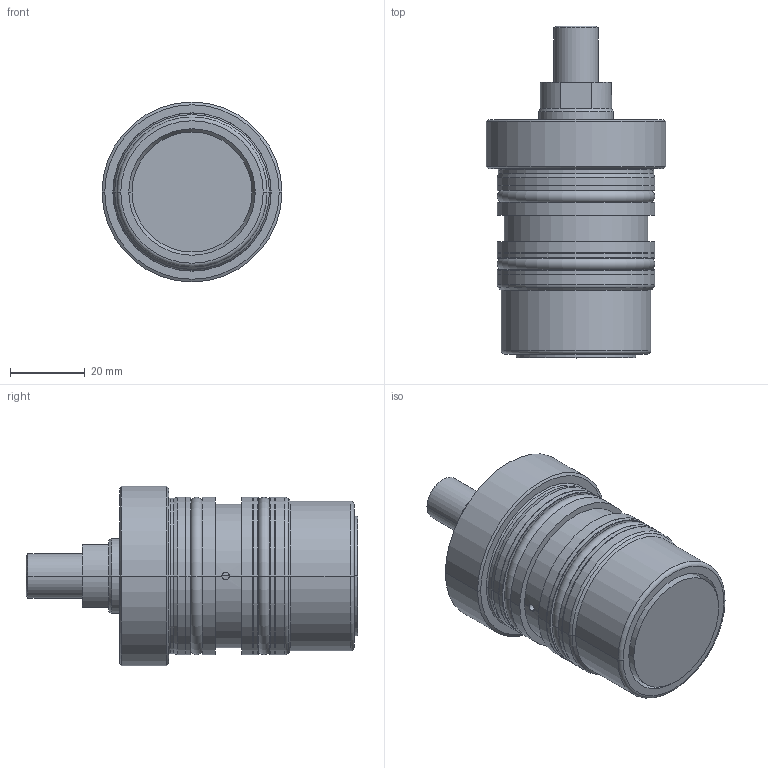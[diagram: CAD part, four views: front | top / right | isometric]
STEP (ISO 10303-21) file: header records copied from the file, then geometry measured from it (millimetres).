
FILE_DESCRIPTION (( 'STEP AP203' ), '1' );
FILE_NAME ('GERMA_Einschraubzylinder_200-032-025-A.STEP', '2023-09-06T06:44:56', ( '' ), ( '' ), 'SwSTEP 2.0', 'SolidWorks 2016', '' );
FILE_SCHEMA (( 'CONFIG_CONTROL_DESIGN' ));
Length unit declared in the file: millimetre
Products named in the file (3): GERMA_Einschraubzylinder_200-032-025-A; Kolben 60x-032_Kolben DU.32-Hub25-AG; Gehaeuse 200-032_Gehaeuse 200-032-025
Assembly tree (2 placements, depth 2):
  GERMA_Einschraubzylinder_200-032-025-A
    Gehaeuse 200-032_Gehaeuse 200-032-025
    Kolben 60x-032_Kolben DU.32-Hub25-AG
Bounding box: 48 x 88.5 x 48 mm (x, y, z)
Volume: 80670.8 mm3; surface area: 25199.5 mm2
Topology: 2 solids, 2 shells, 248 faces, 613 edges, 391 vertices
Faces by surface type: plane 95, bspline 68, cylinder 43, torus 22, cone 20
Entity records: 11241 total; most frequent: CARTESIAN_POINT 5437, ORIENTED_EDGE 1218, DIRECTION 978, EDGE_CURVE 609, VERTEX_POINT 391, AXIS2_PLACEMENT_3D 328, VECTOR 322, LINE 322
